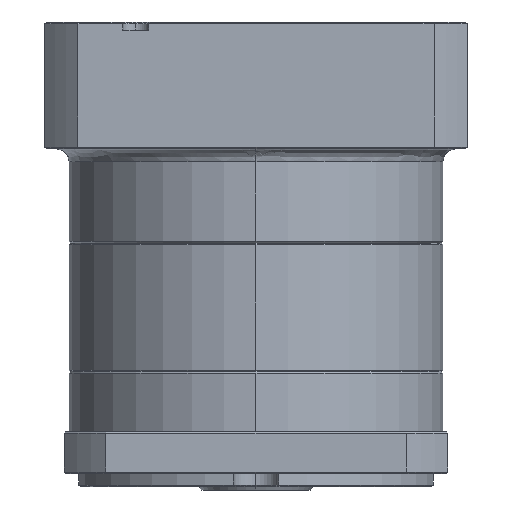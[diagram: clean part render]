
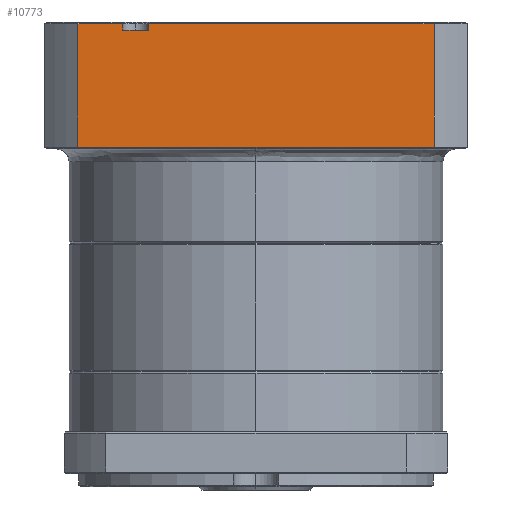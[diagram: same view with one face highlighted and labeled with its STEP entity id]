
A CAD part, left-side view. The second image highlights one B-rep face of the part: STEP entity #10773.
In plain terms, the highlighted planar face has unit normal (-1, 0, 0).
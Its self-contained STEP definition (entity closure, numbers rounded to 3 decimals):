
#1887 = FACE_OUTER_BOUND ( 'NONE', #103457, .T. ) ;
#6535 = LINE ( 'NONE', #10639, #96715 ) ;
#8590 = EDGE_CURVE ( 'NONE', #93082, #54419, #6535, .T. ) ;
#10051 = VERTEX_POINT ( 'NONE', #19535 ) ;
#10639 = CARTESIAN_POINT ( 'NONE',  ( 1.738, 111.359, 52.481 ) ) ;
#10773 = ADVANCED_FACE ( 'NONE', ( #1887 ), #111612, .F. ) ;
#13260 = ORIENTED_EDGE ( 'NONE', *, *, #8590, .F. ) ;
#19535 = CARTESIAN_POINT ( 'NONE',  ( 1.738, 207.131, 52.481 ) ) ;
#23974 = EDGE_CURVE ( 'NONE', #100719, #74255, #68961, .T. ) ;
#26572 = EDGE_CURVE ( 'NONE', #83693, #102488, #106167, .T. ) ;
#27466 = ORIENTED_EDGE ( 'NONE', *, *, #74425, .F. ) ;
#31098 = EDGE_CURVE ( 'NONE', #74255, #10051, #70609, .T. ) ;
#32833 = CARTESIAN_POINT ( 'NONE',  ( 1.738, 111.359, 52.481 ) ) ;
#36131 = CARTESIAN_POINT ( 'NONE',  ( 1.738, 199.131, 52.981 ) ) ;
#36836 = ORIENTED_EDGE ( 'NONE', *, *, #62514, .F. ) ;
#36930 = CARTESIAN_POINT ( 'NONE',  ( 1.738, 111.359, 14.481 ) ) ;
#40179 = VECTOR ( 'NONE', #91464, 1000. ) ;
#43020 = CARTESIAN_POINT ( 'NONE',  ( 1.738, 111.359, 52.981 ) ) ;
#45489 = DIRECTION ( 'NONE',  ( 0., -1., 0. ) ) ;
#46428 = VECTOR ( 'NONE', #87975, 1000. ) ;
#47536 = CARTESIAN_POINT ( 'NONE',  ( 1.738, 207.131, 50.481 ) ) ;
#47819 = LINE ( 'NONE', #36131, #46428 ) ;
#51680 = DIRECTION ( 'NONE',  ( 1., 0., 0. ) ) ;
#52359 = LINE ( 'NONE', #92235, #40179 ) ;
#52464 = LINE ( 'NONE', #36930, #55208 ) ;
#53631 = CARTESIAN_POINT ( 'NONE',  ( 1.738, 207.131, 52.981 ) ) ;
#54036 = VECTOR ( 'NONE', #84067, 1000. ) ;
#54419 = VERTEX_POINT ( 'NONE', #32833 ) ;
#54944 = CARTESIAN_POINT ( 'NONE',  ( 1.738, 199.131, 50.481 ) ) ;
#55208 = VECTOR ( 'NONE', #89517, 1000. ) ;
#56793 = EDGE_CURVE ( 'NONE', #10051, #83693, #88414, .T. ) ;
#59093 = CARTESIAN_POINT ( 'NONE',  ( 1.738, 199.131, 52.481 ) ) ;
#60274 = ORIENTED_EDGE ( 'NONE', *, *, #99171, .T. ) ;
#62514 = EDGE_CURVE ( 'NONE', #102488, #93082, #47819, .T. ) ;
#65070 = VECTOR ( 'NONE', #107000, 1000. ) ;
#68961 = LINE ( 'NONE', #75212, #54036 ) ;
#70609 = LINE ( 'NONE', #81052, #96635 ) ;
#71248 = ORIENTED_EDGE ( 'NONE', *, *, #56793, .F. ) ;
#73609 = VERTEX_POINT ( 'NONE', #77965 ) ;
#73743 = DIRECTION ( 'NONE',  ( 0., -1., 0. ) ) ;
#74255 = VERTEX_POINT ( 'NONE', #80082 ) ;
#74425 = EDGE_CURVE ( 'NONE', #54419, #73609, #52359, .T. ) ;
#75212 = CARTESIAN_POINT ( 'NONE',  ( 1.738, 220.903, 52.981 ) ) ;
#77965 = CARTESIAN_POINT ( 'NONE',  ( 1.738, 111.359, 14.481 ) ) ;
#80082 = CARTESIAN_POINT ( 'NONE',  ( 1.738, 220.903, 52.481 ) ) ;
#81052 = CARTESIAN_POINT ( 'NONE',  ( 1.738, 111.359, 52.481 ) ) ;
#81114 = CARTESIAN_POINT ( 'NONE',  ( 1.738, 111.359, 50.481 ) ) ;
#81305 = ORIENTED_EDGE ( 'NONE', *, *, #31098, .F. ) ;
#82968 = VECTOR ( 'NONE', #107400, 1000. ) ;
#83187 = AXIS2_PLACEMENT_3D ( 'NONE', #43020, #51680, #103599 ) ;
#83250 = ORIENTED_EDGE ( 'NONE', *, *, #26572, .F. ) ;
#83693 = VERTEX_POINT ( 'NONE', #47536 ) ;
#84067 = DIRECTION ( 'NONE',  ( 0., 0., 1. ) ) ;
#87975 = DIRECTION ( 'NONE',  ( 0., 0., 1. ) ) ;
#88009 = ORIENTED_EDGE ( 'NONE', *, *, #23974, .F. ) ;
#88414 = LINE ( 'NONE', #53631, #65070 ) ;
#89517 = DIRECTION ( 'NONE',  ( 0., -1., 0. ) ) ;
#91464 = DIRECTION ( 'NONE',  ( 0., 0., -1. ) ) ;
#92235 = CARTESIAN_POINT ( 'NONE',  ( 1.738, 111.359, 52.981 ) ) ;
#93082 = VERTEX_POINT ( 'NONE', #59093 ) ;
#96635 = VECTOR ( 'NONE', #73743, 1000. ) ;
#96715 = VECTOR ( 'NONE', #45489, 1000. ) ;
#99171 = EDGE_CURVE ( 'NONE', #100719, #73609, #52464, .T. ) ;
#100719 = VERTEX_POINT ( 'NONE', #105691 ) ;
#102488 = VERTEX_POINT ( 'NONE', #54944 ) ;
#103457 = EDGE_LOOP ( 'NONE', ( #60274, #27466, #13260, #36836, #83250, #71248, #81305, #88009 ) ) ;
#103599 = DIRECTION ( 'NONE',  ( 0., 0., -1. ) ) ;
#105691 = CARTESIAN_POINT ( 'NONE',  ( 1.738, 220.903, 14.481 ) ) ;
#106167 = LINE ( 'NONE', #81114, #82968 ) ;
#107000 = DIRECTION ( 'NONE',  ( 0., 0., -1. ) ) ;
#107400 = DIRECTION ( 'NONE',  ( 0., -1., 0. ) ) ;
#111612 = PLANE ( 'NONE',  #83187 ) ;
